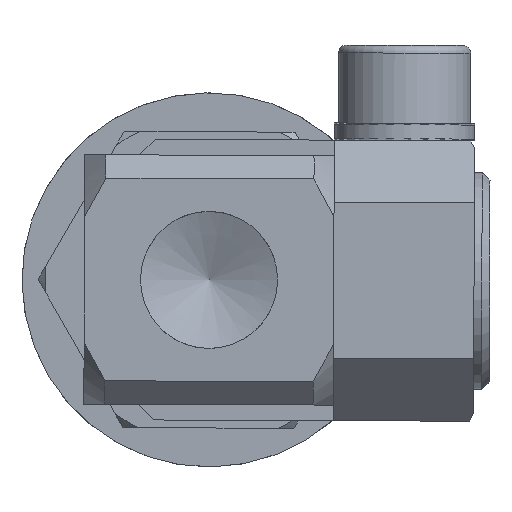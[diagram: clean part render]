
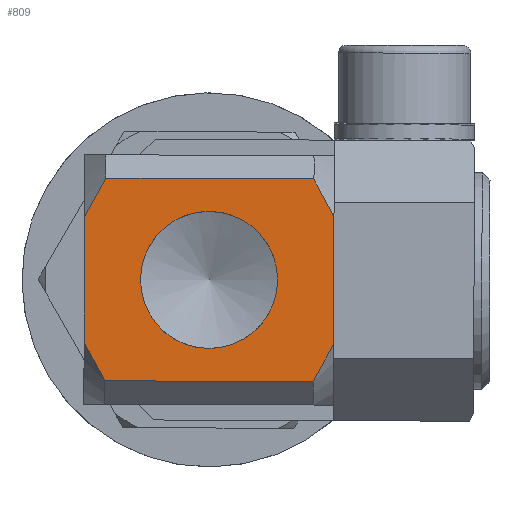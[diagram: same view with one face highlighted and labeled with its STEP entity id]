
A CAD part, front view. The second image highlights one B-rep face of the part: STEP entity #809.
In plain terms, the highlighted planar face has unit normal (0, -1, 0).
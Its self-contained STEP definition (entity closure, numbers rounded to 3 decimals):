
#809=ADVANCED_FACE('',(#1754,#1755),#1756,.T.);
#1754=FACE_OUTER_BOUND('',#2947,.T.);
#1755=FACE_BOUND('',#2948,.T.);
#1756=PLANE('',#2949);
#2947=EDGE_LOOP('',(#8022,#8023,#8024,#8025,#8026,#8027,#8028,#8029));
#2948=EDGE_LOOP('',(#8030));
#2949=AXIS2_PLACEMENT_3D('',#8031,#8032,#8033);
#8022=ORIENTED_EDGE('',*,*,#11003,.F.);
#8023=ORIENTED_EDGE('',*,*,#10982,.T.);
#8024=ORIENTED_EDGE('',*,*,#11006,.F.);
#8025=ORIENTED_EDGE('',*,*,#10965,.T.);
#8026=ORIENTED_EDGE('',*,*,#11008,.F.);
#8027=ORIENTED_EDGE('',*,*,#10938,.T.);
#8028=ORIENTED_EDGE('',*,*,#10933,.F.);
#8029=ORIENTED_EDGE('',*,*,#10962,.F.);
#8030=ORIENTED_EDGE('',*,*,#10993,.T.);
#8031=CARTESIAN_POINT('',(-8.0,-8.0,8.0));
#8032=DIRECTION('',(0.0,-1.0,0.0));
#8033=DIRECTION('',(0.0,0.0,-1.0));
#10933=EDGE_CURVE('',#12294,#12295,#12296,.T.);
#10938=EDGE_CURVE('',#12303,#12295,#12304,.T.);
#10962=EDGE_CURVE('',#12340,#12294,#12342,.T.);
#10965=EDGE_CURVE('',#12346,#12344,#12347,.T.);
#10982=EDGE_CURVE('',#12366,#12370,#12372,.T.);
#10993=EDGE_CURVE('',#12389,#12389,#12390,.F.);
#11003=EDGE_CURVE('',#12366,#12340,#12402,.T.);
#11006=EDGE_CURVE('',#12346,#12370,#12405,.T.);
#11008=EDGE_CURVE('',#12303,#12344,#12407,.T.);
#12294=VERTEX_POINT('',#14406);
#12295=VERTEX_POINT('',#14407);
#12296=B_SPLINE_CURVE_WITH_KNOTS('',3,(#14408,#14409,#14410,#14411),.UNSPECIFIED.,.F.,.F.,(4,4),(0.021,0.024),.UNSPECIFIED.);
#12303=VERTEX_POINT('',#14424);
#12304=LINE('',#14425,#14426);
#12340=VERTEX_POINT('',#14478);
#12342=LINE('',#14480,#14481);
#12344=VERTEX_POINT('',#14483);
#12346=VERTEX_POINT('',#14485);
#12347=LINE('',#14486,#14487);
#12366=VERTEX_POINT('',#14513);
#12370=VERTEX_POINT('',#14521);
#12372=LINE('',#14526,#14527);
#12389=VERTEX_POINT('',#14561);
#12390=CIRCLE('',#14562,4.4);
#12402=B_SPLINE_CURVE_WITH_KNOTS('',3,(#14579,#14580,#14581,#14582),.UNSPECIFIED.,.F.,.F.,(4,4),(0.01,0.013),.UNSPECIFIED.);
#12405=B_SPLINE_CURVE_WITH_KNOTS('',3,(#14588,#14589,#14590,#14591),.UNSPECIFIED.,.F.,.F.,(4,4),(0.021,0.024),.UNSPECIFIED.);
#12407=B_SPLINE_CURVE_WITH_KNOTS('',3,(#14593,#14594,#14595,#14596),.UNSPECIFIED.,.F.,.F.,(4,4),(0.01,0.013),.UNSPECIFIED.);
#14406=CARTESIAN_POINT('',(-4.123,-8.0,-8.0));
#14407=CARTESIAN_POINT('',(-6.5,-8.0,-6.692));
#14408=CARTESIAN_POINT('',(-4.123,-8.0,-8.));
#14409=CARTESIAN_POINT('',(-4.952,-8.0,-7.62));
#14410=CARTESIAN_POINT('',(-5.737,-8.0,-7.174));
#14411=CARTESIAN_POINT('',(-6.5,-8.0,-6.692));
#14424=CARTESIAN_POINT('',(-6.5,-8.0,6.646));
#14425=CARTESIAN_POINT('',(-6.5,-8.0,8.0));
#14426=VECTOR('',#17937,1.0);
#14478=CARTESIAN_POINT('',(4.123,-8.0,-8.0));
#14480=CARTESIAN_POINT('',(-8.0,-8.0,-8.0));
#14481=VECTOR('',#17967,1.0);
#14483=CARTESIAN_POINT('',(-4.021,-8.0,8.0));
#14485=CARTESIAN_POINT('',(4.021,-8.0,8.0));
#14486=CARTESIAN_POINT('',(-8.0,-8.0,8.0));
#14487=VECTOR('',#17971,1.0);
#14513=CARTESIAN_POINT('',(6.5,-8.0,-6.692));
#14521=CARTESIAN_POINT('',(6.5,-8.0,6.646));
#14526=CARTESIAN_POINT('',(6.5,-8.0,8.0));
#14527=VECTOR('',#17983,1.0);
#14561=CARTESIAN_POINT('',(0.,-8.0,-4.4));
#14562=AXIS2_PLACEMENT_3D('',#18002,#18003,#18004);
#14579=CARTESIAN_POINT('',(6.5,-8.0,-6.692));
#14580=CARTESIAN_POINT('',(5.735,-8.0,-7.174));
#14581=CARTESIAN_POINT('',(4.95,-8.0,-7.621));
#14582=CARTESIAN_POINT('',(4.123,-8.0,-8.));
#14588=CARTESIAN_POINT('',(4.021,-8.0,8.));
#14589=CARTESIAN_POINT('',(4.887,-8.0,7.611));
#14590=CARTESIAN_POINT('',(5.706,-8.0,7.147));
#14591=CARTESIAN_POINT('',(6.5,-8.0,6.646));
#14593=CARTESIAN_POINT('',(-6.5,-8.0,6.646));
#14594=CARTESIAN_POINT('',(-5.704,-8.0,7.148));
#14595=CARTESIAN_POINT('',(-4.885,-8.0,7.612));
#14596=CARTESIAN_POINT('',(-4.021,-8.0,8.));
#17937=DIRECTION('',(0.0,0.0,-1.0));
#17967=DIRECTION('',(-1.0,0.0,0.0));
#17971=DIRECTION('',(-1.0,0.0,0.0));
#17983=DIRECTION('',(0.0,0.0,1.0));
#18002=CARTESIAN_POINT('',(0.0,-8.0,0.));
#18003=DIRECTION('',(0.0,-1.0,0.0));
#18004=DIRECTION('',(0.0,0.0,-1.0));
